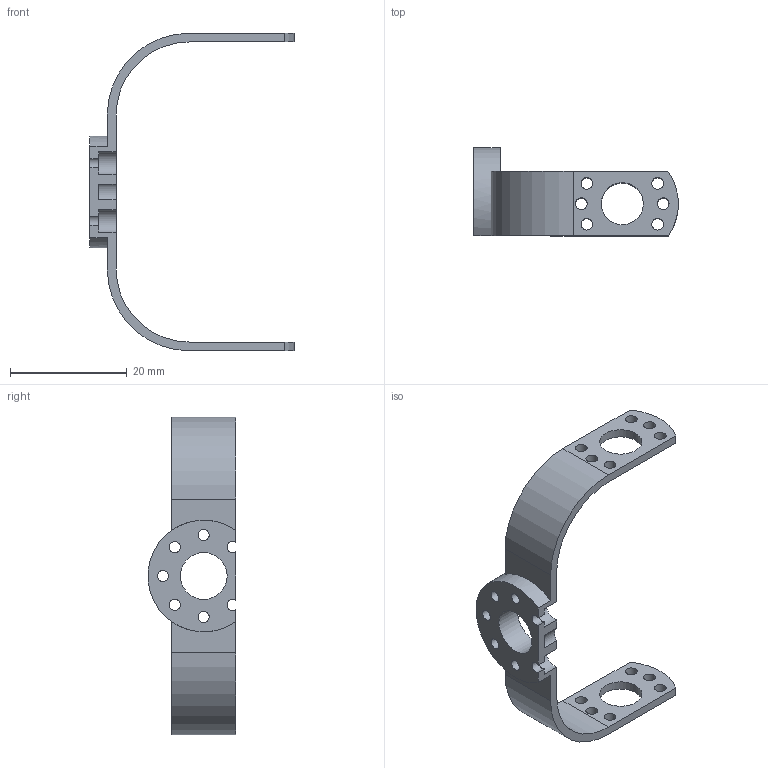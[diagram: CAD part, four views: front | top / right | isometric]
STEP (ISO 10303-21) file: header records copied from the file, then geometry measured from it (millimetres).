
FILE_DESCRIPTION(/* description */ (''),/* implementation_level */ '2;1');
FILE_NAME(/* name */ 'C:/Users/priba/Downloads/GripperCouplerB.step',/* time_stamp */ '2020-09-13T09:20:06+02:00',/* author */ (''),/* organization */ (''),/* preprocessor_version */ 'ST-DEVELOPER v18.1',/* originating_system */ 'Autodesk Translation Framework v9.3.0.1241',/* authorisation */ '');
FILE_SCHEMA (('AUTOMOTIVE_DESIGN { 1 0 10303 214 3 1 1 }'));
Length unit declared in the file: millimetre
Products named in the file (2): GripperCouplerB; GripperCoupler
Assembly tree (1 placements, depth 2):
  GripperCouplerB
    GripperCoupler
Bounding box: 34.98 x 15.01 x 54.35 mm (x, y, z)
Volume: 1815.4 mm3; surface area: 3045.4 mm2
Topology: 1 solids, 1 shells, 58 faces, 153 edges, 102 vertices
Faces by surface type: cylinder 37, plane 21
Full cylindrical faces by diameter (mm): 1.9 x5, 2 x12, 4 x5, 7.2 x2, 8 x1
Entity records: 1966 total; most frequent: DIRECTION 351, CARTESIAN_POINT 316, ORIENTED_EDGE 306, EDGE_CURVE 153, AXIS2_PLACEMENT_3D 137, EDGE_LOOP 103, VERTEX_POINT 102, LINE 77
